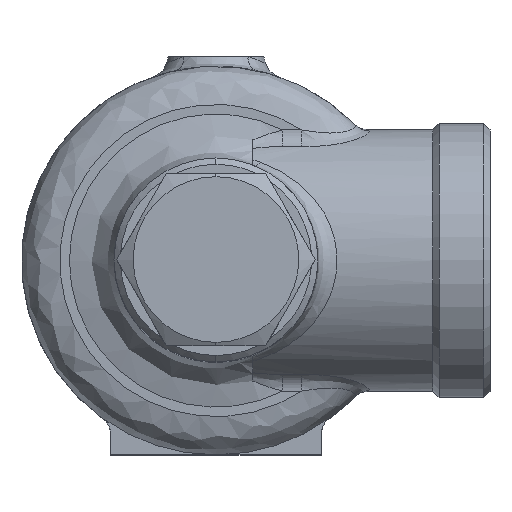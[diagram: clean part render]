
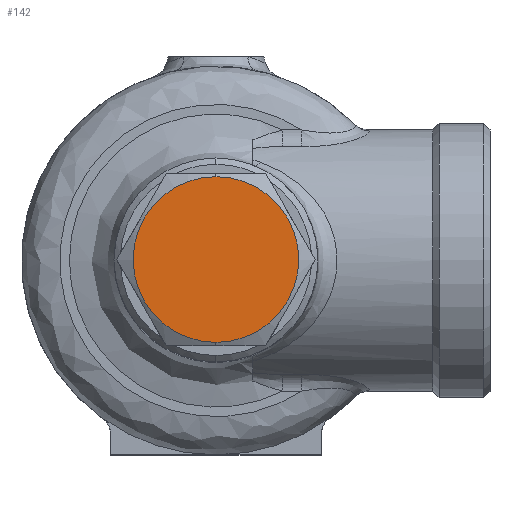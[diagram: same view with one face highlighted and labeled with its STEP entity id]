
A CAD part, top view. The second image highlights one B-rep face of the part: STEP entity #142.
In plain terms, the highlighted planar face has unit normal (0, 0, 1) as drawn and (0, 1, 0) by its records, which use the part's own axes.
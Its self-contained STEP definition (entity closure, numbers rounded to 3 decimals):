
#142=ADVANCED_FACE('',(#863),#862,.T.);
#862=PLANE('',#2630);
#863=FACE_OUTER_BOUND('',#2631,.T.);
#2627=CARTESIAN_POINT('',(-27.02,98.5,-29.9));
#2628=DIRECTION('',(0.,1.,0.));
#2629=DIRECTION('',(0.,0.,1.));
#2630=AXIS2_PLACEMENT_3D('',#2627,#2628,#2629);
#2631=EDGE_LOOP('',(#3381,#3382));
#3381=ORIENTED_EDGE('',*,*,#3820,.T.);
#3382=ORIENTED_EDGE('',*,*,#3821,.T.);
#3820=EDGE_CURVE('',#5237,#5238,#5239,.T.);
#3821=EDGE_CURVE('',#5238,#5237,#5245,.T.);
#5237=VERTEX_POINT('',#7065);
#5238=VERTEX_POINT('',#7066);
#5239=CIRCLE('',#7070,13.);
#5245=CIRCLE('',#7074,13.);
#7065=CARTESIAN_POINT('',(0.,98.5,13.));
#7066=CARTESIAN_POINT('',(0.003,98.5,-13.));
#7067=CARTESIAN_POINT('',(0.,98.5,0.));
#7068=DIRECTION('',(0.,1.,0.));
#7069=DIRECTION('',(0.,0.,1.));
#7070=AXIS2_PLACEMENT_3D('',#7067,#7068,#7069);
#7071=CARTESIAN_POINT('',(0.,98.5,0.));
#7072=DIRECTION('',(0.,1.,0.));
#7073=DIRECTION('',(0.,0.,1.));
#7074=AXIS2_PLACEMENT_3D('',#7071,#7072,#7073);
